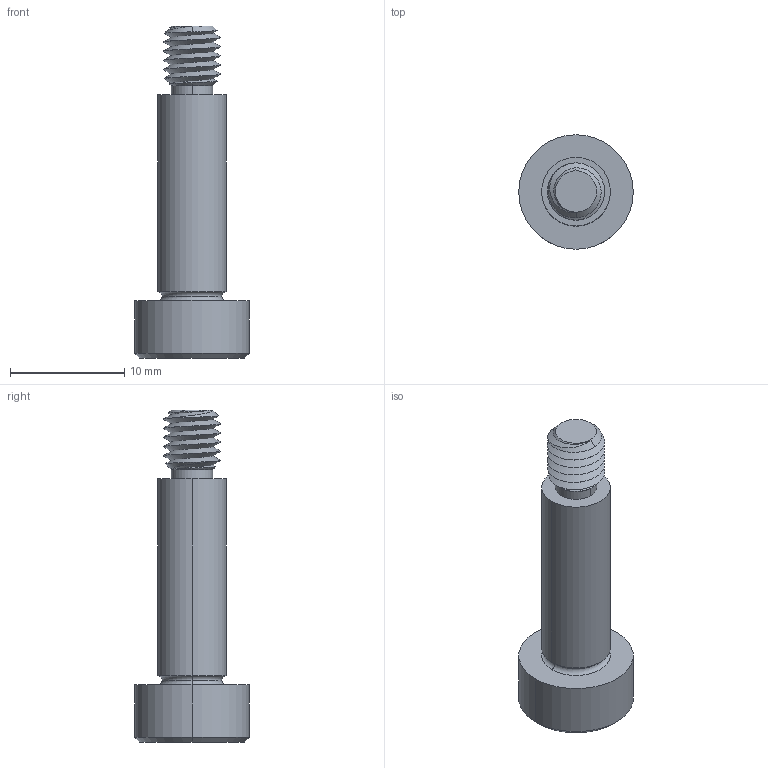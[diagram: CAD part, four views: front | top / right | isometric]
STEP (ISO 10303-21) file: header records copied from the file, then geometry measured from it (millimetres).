
FILE_DESCRIPTION (( 'STEP AP203' ), '1' );
FILE_NAME ('P0130.060-018-B2.step', '2021-11-09T21:25:23', ( '' ), ( '' ), 'SwSTEP 2.0', 'SolidWorks 2019', '' );
FILE_SCHEMA (( 'CONFIG_CONTROL_DESIGN' ));
Length unit declared in the file: millimetre
Products named in the file (1): P0130.060-018-B2
Bounding box: 10 x 10 x 29 mm (x, y, z)
Volume: 952.6 mm3; surface area: 826.8 mm2
Topology: 1 solids, 1 shells, 53 faces, 121 edges, 71 vertices
Faces by surface type: cylinder 17, plane 16, cone 14, torus 4, bspline 2
Entity records: 2367 total; most frequent: CARTESIAN_POINT 1186, ORIENTED_EDGE 238, DIRECTION 226, EDGE_CURVE 119, AXIS2_PLACEMENT_3D 92, VERTEX_POINT 71, EDGE_LOOP 56, FACE_OUTER_BOUND 53
